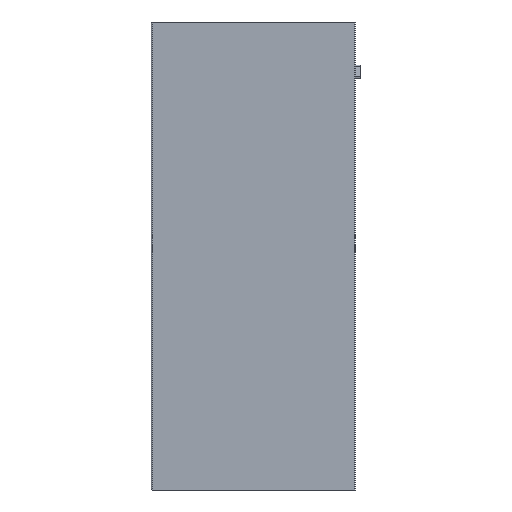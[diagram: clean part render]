
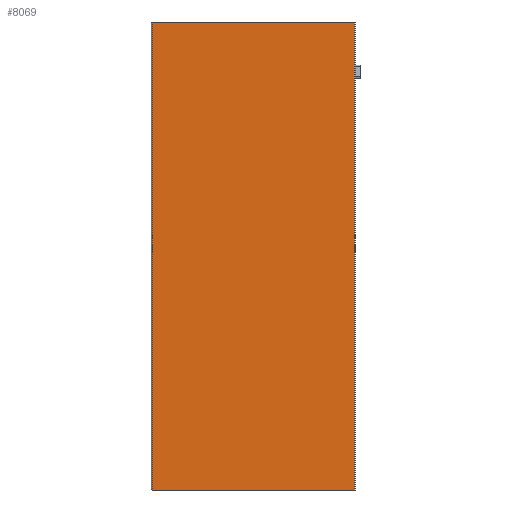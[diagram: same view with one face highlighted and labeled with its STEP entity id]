
A CAD part, left-side view. The second image highlights one B-rep face of the part: STEP entity #8069.
In plain terms, the highlighted planar face has unit normal (-1, 0, 0).
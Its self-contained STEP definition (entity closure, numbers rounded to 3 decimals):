
#2156 = VECTOR ( 'NONE', #2416, 1000. ) ;
#2308 = ORIENTED_EDGE ( 'NONE', *, *, #11927, .F. ) ;
#2416 = DIRECTION ( 'NONE',  ( 0., -1., 0. ) ) ;
#2835 = VECTOR ( 'NONE', #8835, 1000. ) ;
#3042 = VERTEX_POINT ( 'NONE', #10324 ) ;
#3104 = DIRECTION ( 'NONE',  ( 0., 0., 1. ) ) ;
#3126 = EDGE_CURVE ( 'NONE', #3185, #3042, #4783, .T. ) ;
#3185 = VERTEX_POINT ( 'NONE', #11779 ) ;
#4174 = ORIENTED_EDGE ( 'NONE', *, *, #10657, .T. ) ;
#4783 = LINE ( 'NONE', #5044, #2156 ) ;
#4892 = LINE ( 'NONE', #11270, #6893 ) ;
#4999 = PLANE ( 'NONE',  #5556 ) ;
#5044 = CARTESIAN_POINT ( 'NONE',  ( -12.5, 55.8, 0. ) ) ;
#5364 = DIRECTION ( 'NONE',  ( 0., -1., 0. ) ) ;
#5405 = CARTESIAN_POINT ( 'NONE',  ( -12.5, 141.8, -399. ) ) ;
#5472 = LINE ( 'NONE', #7846, #2835 ) ;
#5556 = AXIS2_PLACEMENT_3D ( 'NONE', #11848, #12771, #6964 ) ;
#5777 = EDGE_CURVE ( 'NONE', #12199, #3042, #9194, .T. ) ;
#6266 = VECTOR ( 'NONE', #3104, 1000. ) ;
#6893 = VECTOR ( 'NONE', #5364, 1000. ) ;
#6964 = DIRECTION ( 'NONE',  ( 0., 1., 0. ) ) ;
#7846 = CARTESIAN_POINT ( 'NONE',  ( -12.5, 141.8, -462.455 ) ) ;
#8069 = ADVANCED_FACE ( 'NONE', ( #12127 ), #4999, .T. ) ;
#8528 = CARTESIAN_POINT ( 'NONE',  ( -12.5, -30.66, -399. ) ) ;
#8835 = DIRECTION ( 'NONE',  ( 0., 0., 1. ) ) ;
#9006 = CARTESIAN_POINT ( 'NONE',  ( -12.5, -30.66, -462.455 ) ) ;
#9194 = LINE ( 'NONE', #9006, #6266 ) ;
#9568 = ORIENTED_EDGE ( 'NONE', *, *, #5777, .T. ) ;
#10324 = CARTESIAN_POINT ( 'NONE',  ( -12.5, -30.66, 0. ) ) ;
#10657 = EDGE_CURVE ( 'NONE', #11718, #12199, #4892, .T. ) ;
#11270 = CARTESIAN_POINT ( 'NONE',  ( -12.5, 56.8, -399. ) ) ;
#11674 = EDGE_LOOP ( 'NONE', ( #9568, #12409, #2308, #4174 ) ) ;
#11718 = VERTEX_POINT ( 'NONE', #5405 ) ;
#11779 = CARTESIAN_POINT ( 'NONE',  ( -12.5, 141.8, 0. ) ) ;
#11848 = CARTESIAN_POINT ( 'NONE',  ( -12.5, 55.8, -462.455 ) ) ;
#11927 = EDGE_CURVE ( 'NONE', #11718, #3185, #5472, .T. ) ;
#12127 = FACE_OUTER_BOUND ( 'NONE', #11674, .T. ) ;
#12199 = VERTEX_POINT ( 'NONE', #8528 ) ;
#12409 = ORIENTED_EDGE ( 'NONE', *, *, #3126, .F. ) ;
#12771 = DIRECTION ( 'NONE',  ( -1., 0., 0. ) ) ;
